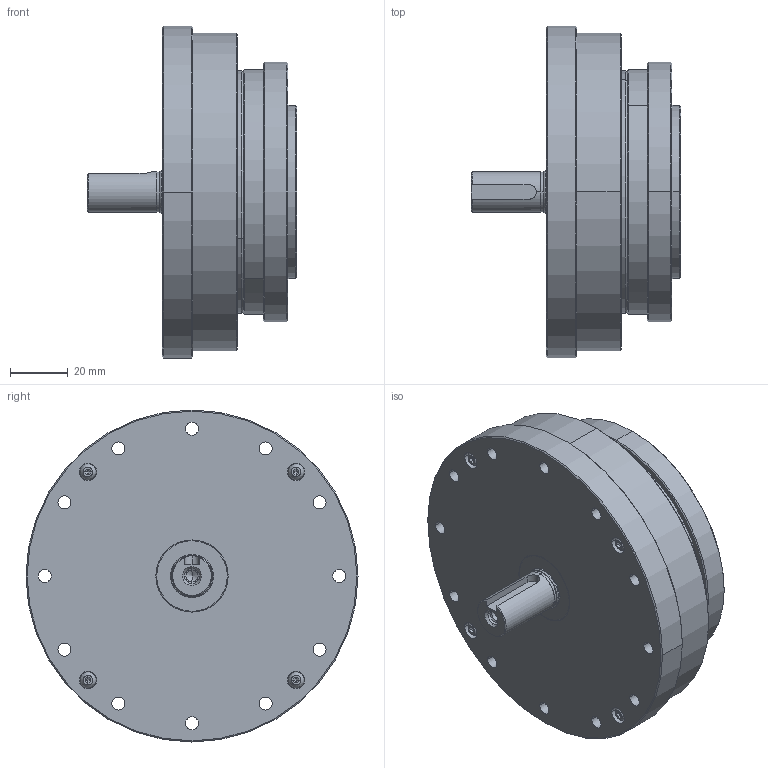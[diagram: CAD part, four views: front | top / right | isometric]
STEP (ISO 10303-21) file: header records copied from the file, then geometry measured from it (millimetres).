
FILE_DESCRIPTION (( 'STEP AP203' ), '1' );
FILE_NAME ('LHSG-25-XXX-C-IV.step', '2025-01-07T07:25:47', ( '' ), ( '' ), 'SwSTEP 2.0', 'SolidWorks 2023', '' );
FILE_SCHEMA (( 'CONFIG_CONTROL_DESIGN' ));
Length unit declared in the file: metre
Products named in the file (1): LHSG-25-XXX-C-IV
Bounding box: 72.5 x 115 x 115 mm (x, y, z)
Volume: 258957.1 mm3; surface area: 175119.8 mm2
Topology: 60 solids, 60 shells, 1706 faces, 4414 edges, 2717 vertices
Faces by surface type: cylinder 614, plane 482, bspline 338, cone 272
Entity records: 60342 total; most frequent: CARTESIAN_POINT 19854, DIRECTION 8521, ORIENTED_EDGE 8460, EDGE_CURVE 4230, AXIS2_PLACEMENT_3D 3540, VERTEX_POINT 2717, CIRCLE 2171, EDGE_LOOP 2081
